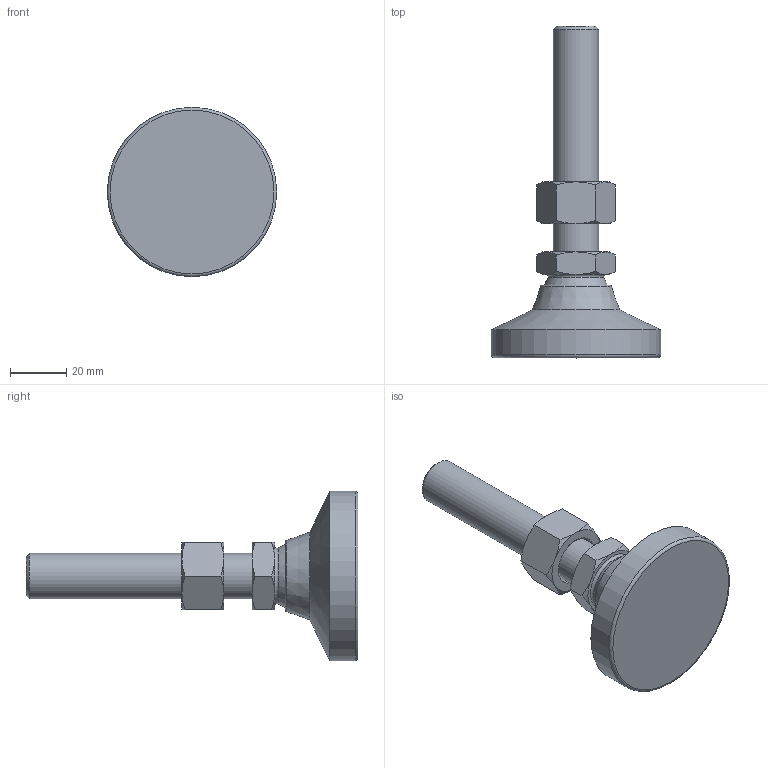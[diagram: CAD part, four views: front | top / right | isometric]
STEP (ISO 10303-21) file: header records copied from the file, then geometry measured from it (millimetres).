
FILE_DESCRIPTION( ( 'STEP AP214' ), ' ' );
FILE_NAME( 'O:/ganter_2015/teil_2/2_5/gn343_2/gn343_2_ks/Levelling foot with threaded stud GN 343.2-60-M16-80-KS-(0).stp', '2015-10-26T09:11:20', ( '' ), ( '' ), ' ', 'PARTsolutions', ' ' );
FILE_SCHEMA( ( 'AUTOMOTIVE_DESIGN { 1 0 10303 214 1 1 1 1 }' ) );
Length unit declared in the file: millimetre
Products named in the file (4): Levelling foot with threaded stud GN 343.2-60-M16-80-KS-(0); _Levelling foot with threaded stud GN 343.2-60-M16-80-KS-(0)_foot; _Gelenkfuss mit Schraube GN 343.2-60-M16-80-KS-(0)_screw; _GLevelling foot with threaded stud GN 343.2-60-M16-80-KS-(0)_nut
Assembly tree (3 placements, depth 2):
  Levelling foot with threaded stud GN 343.2-60-M16-80-KS-(0)
    _Levelling foot with threaded stud GN 343.2-60-M16-80-KS-(0)_foot
    _Gelenkfuss mit Schraube GN 343.2-60-M16-80-KS-(0)_screw
    _GLevelling foot with threaded stud GN 343.2-60-M16-80-KS-(0)_nut
Bounding box: 60 x 117.5 x 60 mm (x, y, z)
Volume: 71690.5 mm3; surface area: 18100 mm2
Topology: 3 solids, 3 shells, 56 faces, 117 edges, 68 vertices
Faces by surface type: cone 29, plane 19, torus 3, cylinder 3, sphere 2
Full cylindrical faces by diameter (mm): 13.835 x1, 16 x1, 60 x1
Entity records: 2082 total; most frequent: CARTESIAN_POINT 514, DIRECTION 212, ORIENTED_EDGE 200, AXIS2_PLACEMENT_3D 100, EDGE_CURVE 100, EDGE_LOOP 72, VERTEX_POINT 66, FACE_OUTER_BOUND 62
